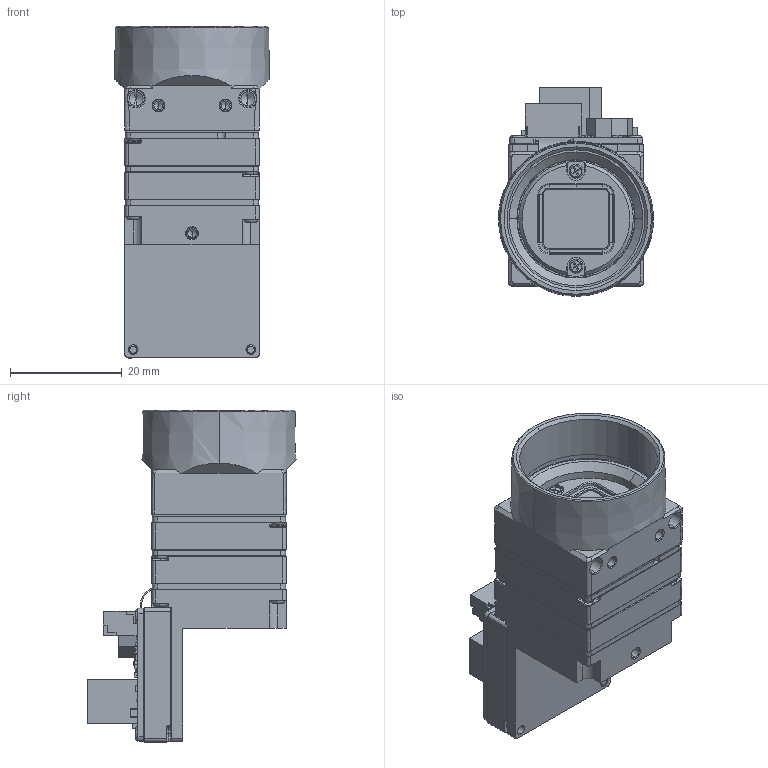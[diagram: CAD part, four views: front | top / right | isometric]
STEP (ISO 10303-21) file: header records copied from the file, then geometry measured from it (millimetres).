
FILE_DESCRIPTION (( 'STEP AP203' ), '1' );
FILE_NAME ('408-379-A_IX_90.STEP', '2023-03-02T09:05:30', ( '' ), ( '' ), 'SwSTEP 2.0', 'SolidWorks 2021', '' );
FILE_SCHEMA (( 'CONFIG_CONTROL_DESIGN' ));
Products named in the file (1): 408-379-A_IX_90
Bounding box: 27.72 x 37.35 x 59.35 mm (x, y, z)
Volume: 12144.7 mm3; surface area: 20915.6 mm2
Topology: 79 solids, 79 shells, 4992 faces, 12786 edges, 7853 vertices
Faces by surface type: plane 2821, cylinder 1262, cone 381, bspline 295, torus 165, sphere 68
Entity records: 154021 total; most frequent: CARTESIAN_POINT 34626, ORIENTED_EDGE 25132, DIRECTION 24290, EDGE_CURVE 12566, VECTOR 8800, LINE 8800, VERTEX_POINT 7845, AXIS2_PLACEMENT_3D 7745
